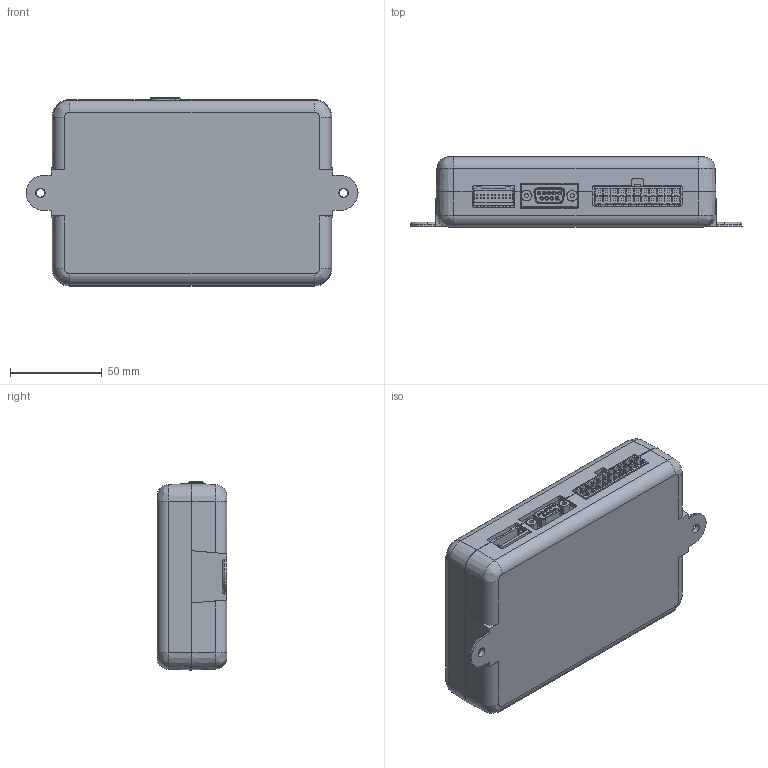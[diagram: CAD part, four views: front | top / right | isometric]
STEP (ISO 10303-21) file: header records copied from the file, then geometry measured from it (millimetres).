
FILE_DESCRIPTION(/* description */ (''),/* implementation_level */ '2;1');
FILE_NAME(/* name */ 'E:\CADTEKK DESIGNS\CLIENT''S PROJECTS\Ewert\PROJECTS\Orion Junior\ASSEMBLIES\Assy, Orion Jr..stp',/* time_stamp */ '2014-04-25T23:06:18-07:00',/* author */ ('Administrator'),/* organization */ (''),/* preprocessor_version */ 'ST-DEVELOPER v15.2',/* originating_system */ 'Autodesk Inventor 2014',/* authorisation */ '');
FILE_SCHEMA (('CONFIG_CONTROL_DESIGN'));
Length unit declared in the file: inch
Products named in the file (8): Bottom; Screw; Top; S20B-PADSS-1, (Connector); 2-1586041-2, (Connector); DB9, Fem, Rt Angle; 7261, (Jack Screw, 4-40); Assy, Orion Jr.
Bounding box: 181.36 x 38.15 x 102.77 mm (x, y, z)
Volume: 123146.6 mm3; surface area: 109811.4 mm2
Topology: 11 solids, 11 shells, 1478 faces, 4417 edges, 3103 vertices
Faces by surface type: plane 1119, cylinder 190, cone 115, bspline 32, torus 18, sphere 4
Full cylindrical faces by diameter (mm): 1.2 x9, 2.159 x2, 2.261 x2, 2.794 x40, 2.845 x2, 3.3 x2
Entity records: 43724 total; most frequent: CARTESIAN_POINT 10215, ORIENTED_EDGE 7018, DIRECTION 6390, EDGE_CURVE 3509, LINE 2732, VECTOR 2732, VERTEX_POINT 2398, AXIS2_PLACEMENT_3D 1829
